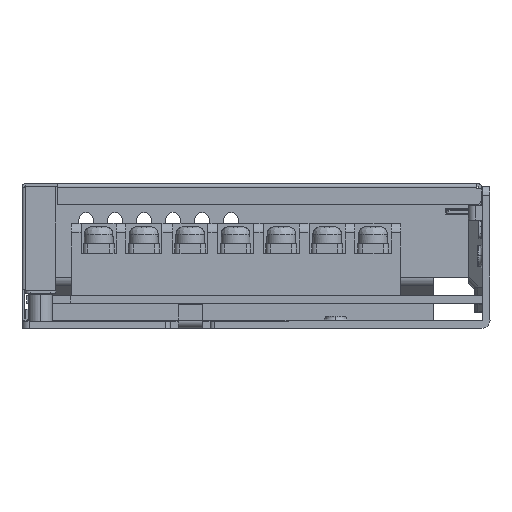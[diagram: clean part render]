
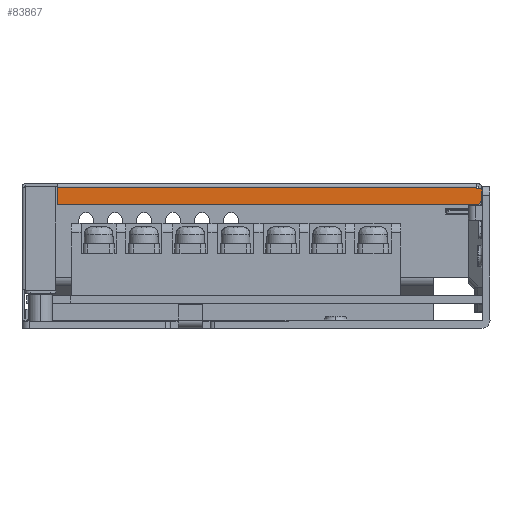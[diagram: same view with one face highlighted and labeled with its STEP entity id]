
A CAD part, left-side view. The second image highlights one B-rep face of the part: STEP entity #83867.
In plain terms, the highlighted planar face has unit normal (-1, 0, 0).
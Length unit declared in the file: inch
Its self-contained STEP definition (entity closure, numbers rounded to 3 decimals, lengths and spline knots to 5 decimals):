
#514 = EDGE_LOOP ( 'NONE', ( #89654, #27475, #46350, #21912, #79790, #103383, #22929 ) ) ;
#1855 = VECTOR ( 'NONE', #96156, 39.37008 ) ;
#7069 = VERTEX_POINT ( 'NONE', #100855 ) ;
#8164 = VERTEX_POINT ( 'NONE', #17308 ) ;
#16353 = VERTEX_POINT ( 'NONE', #146490 ) ;
#17308 = CARTESIAN_POINT ( 'NONE',  ( -11.27692, 8.1053, 0.88583 ) ) ;
#21441 = AXIS2_PLACEMENT_3D ( 'NONE', #22803, #105665, #34688 ) ;
#21912 = ORIENTED_EDGE ( 'NONE', *, *, #133376, .F. ) ;
#22803 = CARTESIAN_POINT ( 'NONE',  ( -11.27692, 8.22341, 0.87696 ) ) ;
#22929 = ORIENTED_EDGE ( 'NONE', *, *, #53640, .T. ) ;
#23507 = AXIS2_PLACEMENT_3D ( 'NONE', #117147, #46135, #129002 ) ;
#27328 = DIRECTION ( 'NONE',  ( 0., 0., -1. ) ) ;
#27475 = ORIENTED_EDGE ( 'NONE', *, *, #45092, .F. ) ;
#32721 = CARTESIAN_POINT ( 'NONE',  ( -11.27692, 8.06199, 0.78346 ) ) ;
#34688 = DIRECTION ( 'NONE',  ( 0., 0., 1. ) ) ;
#38852 = LINE ( 'NONE', #88133, #98193 ) ;
#44491 = CARTESIAN_POINT ( 'NONE',  ( -11.27692, 8.1053, 0.87008 ) ) ;
#45092 = EDGE_CURVE ( 'NONE', #90329, #16353, #51581, .T. ) ;
#45568 = CARTESIAN_POINT ( 'NONE',  ( -11.27692, 10.82128, 0.88583 ) ) ;
#46135 = DIRECTION ( 'NONE',  ( 1., 0., 0. ) ) ;
#46350 = ORIENTED_EDGE ( 'NONE', *, *, #144124, .F. ) ;
#49273 = CARTESIAN_POINT ( 'NONE',  ( -11.27692, 11.52459, 0.74409 ) ) ;
#51276 = EDGE_CURVE ( 'NONE', #96937, #8164, #96458, .T. ) ;
#51581 = CIRCLE ( 'NONE', #23507, 0.03937 ) ;
#53640 = EDGE_CURVE ( 'NONE', #7069, #136478, #90982, .T. ) ;
#57517 = DIRECTION ( 'NONE',  ( 0., -1., 0. ) ) ;
#59677 = CARTESIAN_POINT ( 'NONE',  ( -11.27692, 11.52459, 0.67411 ) ) ;
#61085 = FACE_OUTER_BOUND ( 'NONE', #514, .T. ) ;
#70711 = CARTESIAN_POINT ( 'NONE',  ( -11.27692, 8.06199, 0.87008 ) ) ;
#74171 = CARTESIAN_POINT ( 'NONE',  ( -11.27692, 8.09448, 0.87008 ) ) ;
#76278 = DIRECTION ( 'NONE',  ( 0., -1., 0. ) ) ;
#77627 = LINE ( 'NONE', #45568, #101627 ) ;
#79790 = ORIENTED_EDGE ( 'NONE', *, *, #51276, .T. ) ;
#83867 = ADVANCED_FACE ( 'NONE', ( #61085 ), #93284, .T. ) ;
#84305 = CARTESIAN_POINT ( 'NONE',  ( -11.27692, 8.1053, 0.87696 ) ) ;
#86478 = CARTESIAN_POINT ( 'NONE',  ( -11.27692, 8.06199, 0.8809 ) ) ;
#88133 = CARTESIAN_POINT ( 'NONE',  ( -11.27692, 8.05609, 0.74409 ) ) ;
#89654 = ORIENTED_EDGE ( 'NONE', *, *, #143643, .T. ) ;
#90329 = VERTEX_POINT ( 'NONE', #32721 ) ;
#90982 = LINE ( 'NONE', #59677, #122464 ) ;
#93284 = PLANE ( 'NONE',  #21441 ) ;
#96156 = DIRECTION ( 'NONE',  ( 0., 0., 1. ) ) ;
#96458 = LINE ( 'NONE', #84305, #1855 ) ;
#96937 = VERTEX_POINT ( 'NONE', #44491 ) ;
#98092 = VERTEX_POINT ( 'NONE', #70711 ) ;
#98193 = VECTOR ( 'NONE', #76278, 39.37008 ) ;
#100855 = CARTESIAN_POINT ( 'NONE',  ( -11.27692, 11.52459, 0.88583 ) ) ;
#101627 = VECTOR ( 'NONE', #57517, 39.37008 ) ;
#103383 = ORIENTED_EDGE ( 'NONE', *, *, #119685, .F. ) ;
#105500 = LINE ( 'NONE', #86478, #129551 ) ;
#105665 = DIRECTION ( 'NONE',  ( -1., 0., 0. ) ) ;
#117106 = VECTOR ( 'NONE', #121720, 39.37008 ) ;
#117147 = CARTESIAN_POINT ( 'NONE',  ( -11.27692, 8.10136, 0.78346 ) ) ;
#119685 = EDGE_CURVE ( 'NONE', #7069, #8164, #77627, .T. ) ;
#121720 = DIRECTION ( 'NONE',  ( 0., -1., 0. ) ) ;
#122464 = VECTOR ( 'NONE', #130635, 39.37008 ) ;
#129002 = DIRECTION ( 'NONE',  ( 0., 0., 1. ) ) ;
#129551 = VECTOR ( 'NONE', #27328, 39.37008 ) ;
#130635 = DIRECTION ( 'NONE',  ( 0., 0., -1. ) ) ;
#133376 = EDGE_CURVE ( 'NONE', #96937, #98092, #148828, .T. ) ;
#136478 = VERTEX_POINT ( 'NONE', #49273 ) ;
#143643 = EDGE_CURVE ( 'NONE', #136478, #16353, #38852, .T. ) ;
#144124 = EDGE_CURVE ( 'NONE', #98092, #90329, #105500, .T. ) ;
#146490 = CARTESIAN_POINT ( 'NONE',  ( -11.27692, 8.10136, 0.74409 ) ) ;
#148828 = LINE ( 'NONE', #74171, #117106 ) ;
